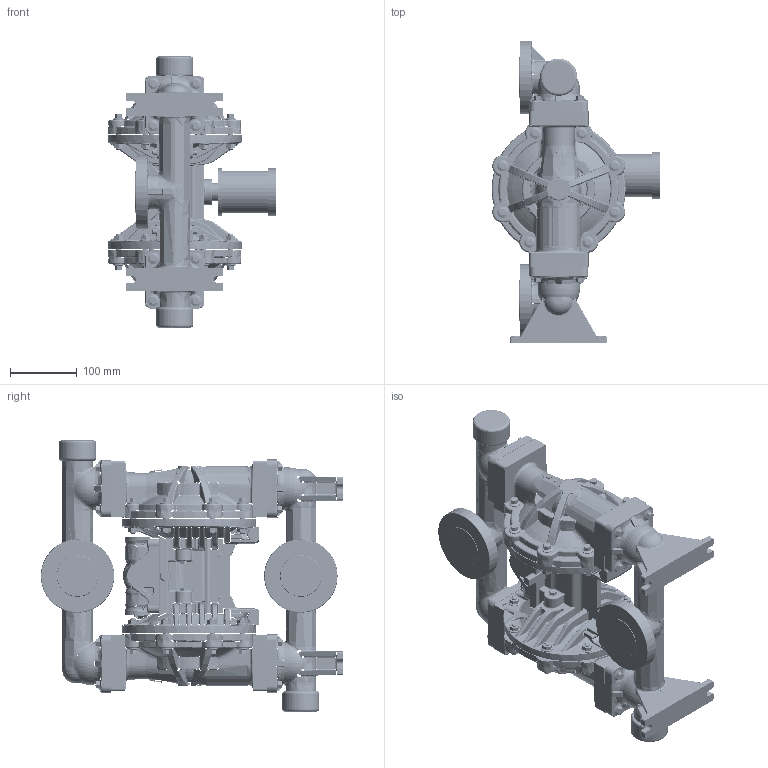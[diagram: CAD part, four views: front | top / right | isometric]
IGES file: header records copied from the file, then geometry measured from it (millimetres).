
Start section:  PTC IGES file: 649000-en-u.igs
Global section: file name: 649000-en-u.igs; native system: Creo Parametric by PTC Inc.; preprocessor: 2021072; author: qtmwp1; organization: Unknown; date: 20231218.085047; units: inch
Bounding box: 252.87 x 453.3 x 406.4 mm (x, y, z)
Surface area: 908643.9 mm2 (no closed solid volume)
Topology: 0 solids, 0 shells, 3803 faces, 19545 edges, 19545 vertices
Faces by surface type: bspline 1912, revolution 1883, extrusion 8
